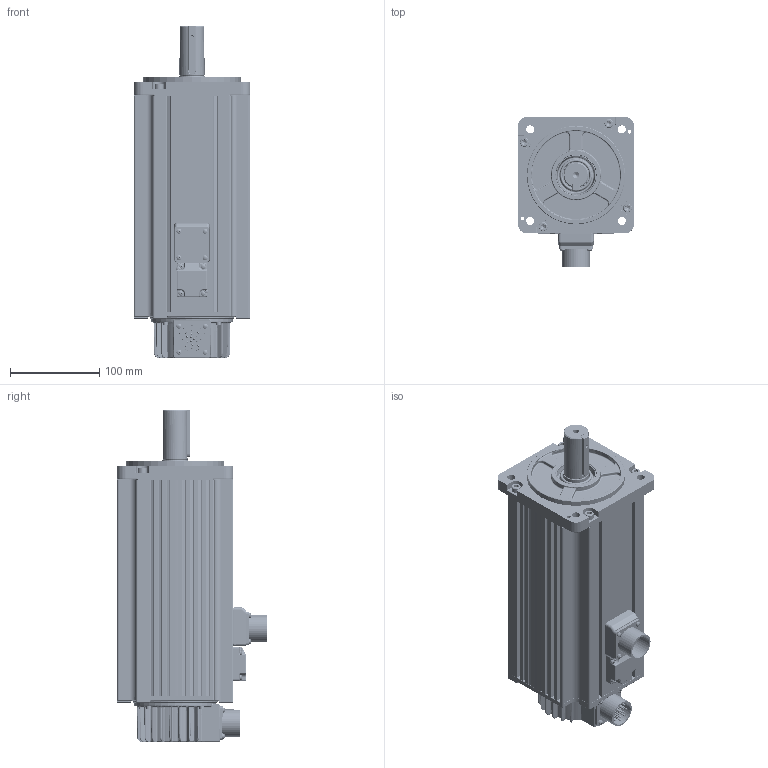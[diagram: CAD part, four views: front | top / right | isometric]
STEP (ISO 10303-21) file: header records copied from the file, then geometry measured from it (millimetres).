
FILE_DESCRIPTION((''),'2;1');
FILE_NAME('01110915_ASM','2019-11-15T09:52:05',('z17474'),(''),'CREO PARAMETRIC BY PTC INC, 2017260','CREO PARAMETRIC BY PTC INC, 2017260','');
FILE_SCHEMA(('CONFIG_CONTROL_DESIGN'));
Products named in the file (32): ____-1_AF0; ___AF0_ASM; 15050041-LJ; 31100134-____; 31100148-LJ; _____AF0_ASM; 15050037-LJ; __10_AF0; __1_AF0; 31150038-LJ-1_AF0_ASM; 31160032-ZP-1_AF0_ASM; 31090149-ZP_AF0_ASM; 31190209___-A_D72-GB89_3-86_AF0; 31090131-LJ_AF0; ____1; 31100089-LJ; 0000701462_AF0; __1_1_2_AF0; _____1_ASM_1_1_2_AF0_ASM; 0000701476_AF0_ASM; 0620_AF0; 0620_AF1; 0620_AF2; 0620_AF3; 0312-1_AF0; 0312-1_AF1; 0312-1_AF2; 0312-1_AF3; JIAN; 22010052_2; 22010052_1; 01110915_ASM
Assembly tree (51 placements, depth 5):
  01110915_ASM
    _____AF0_ASM
      ___AF0_ASM
        ____-1_AF0
      15050041-LJ
      31100134-____
      31100148-LJ
    15050037-LJ
    31090149-ZP_AF0_ASM
      31160032-ZP-1_AF0_ASM
        31150038-LJ-1_AF0_ASM
          __10_AF0
          __1_AF0
    31190209___-A_D72-GB89_3-86_AF0
    31090131-LJ_AF0
    ____1
    31100089-LJ
    0000701462_AF0
    0000701476_AF0_ASM
      _____1_ASM_1_1_2_AF0_ASM
        __1_1_2_AF0
    0620_AF0
    0620_AF1
    0620_AF2
    0620_AF3
    0312-1_AF0
    0312-1_AF1
    0312-1_AF2
    0312-1_AF3
    JIAN
    22010052_2  x14
    22010052_1  x8
Bounding box: 130 x 167.5 x 371.5 mm (x, y, z)
Volume: 1143843.8 mm3; surface area: 452079.6 mm2
Topology: 43 solids, 46 shells, 5471 faces, 12262 edges, 6853 vertices
Faces by surface type: cone 2175, cylinder 1974, plane 709, torus 296, bspline 205, sphere 112
Entity records: 92343 total; most frequent: CARTESIAN_POINT 37995, DIRECTION 11864, ORIENTED_EDGE 11038, EDGE_CURVE 5525, AXIS2_PLACEMENT_3D 4811, VERTEX_POINT 3378, CIRCLE 2648, EDGE_LOOP 2477
